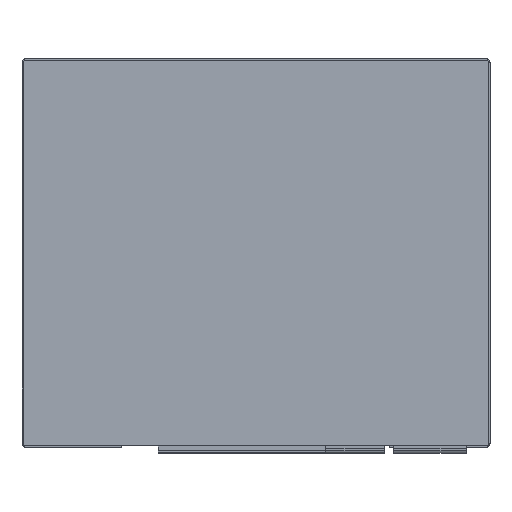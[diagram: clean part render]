
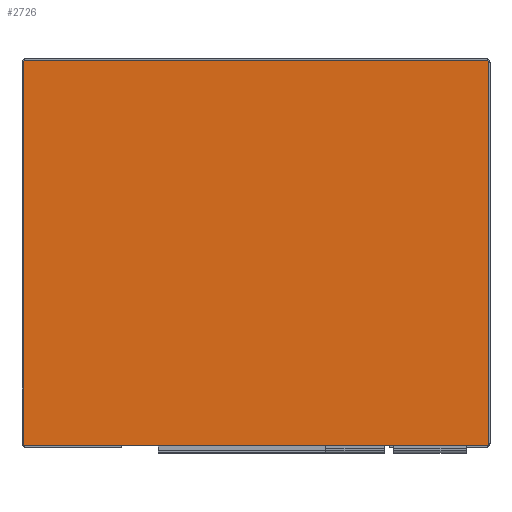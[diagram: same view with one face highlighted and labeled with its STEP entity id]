
A CAD part, top view. The second image highlights one B-rep face of the part: STEP entity #2726.
In plain terms, the highlighted free-form (B-spline) face has degree [1, 1] with [2, 2] control points.
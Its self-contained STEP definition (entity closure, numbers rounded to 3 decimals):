
#2658=CARTESIAN_POINT('',(41.877,35.377,3.5));
#2659=CARTESIAN_POINT('',(41.877,-48.377,3.5));
#2660=CARTESIAN_POINT('',(-41.877,35.377,3.5));
#2661=CARTESIAN_POINT('',(-41.877,-48.377,3.5));
#2662=B_SPLINE_SURFACE_WITH_KNOTS('',1,1,((#2658,#2659),(#2660,#2661)),.PLANE_SURF.,.F.,.F.,.U.,(2,2),(2,2),(0.,1.),(0.,1.),.UNSPECIFIED.);
#2663=CARTESIAN_POINT('',(-37.87,-31.57,3.5));
#2664=VERTEX_POINT('',#2663);
#2665=CARTESIAN_POINT('',(37.87,-31.57,3.5));
#2666=VERTEX_POINT('',#2665);
#2667=CARTESIAN_POINT('',(-37.87,-31.57,3.5));
#2668=CARTESIAN_POINT('',(37.87,-31.57,3.5));
#2669=B_SPLINE_CURVE_WITH_KNOTS('',1,(#2667,#2668),.POLYLINE_FORM.,.F.,.U.,(2,2),(0.003,0.997),.UNSPECIFIED.);
#2670=EDGE_CURVE('',#2664,#2666,#2669,.T.);
#2671=ORIENTED_EDGE('',*,*,#2670,.T.);
#2672=CARTESIAN_POINT('',(38.07,-31.37,3.5));
#2673=VERTEX_POINT('',#2672);
#2674=CARTESIAN_POINT('',(37.87,-31.57,3.5));
#2675=CARTESIAN_POINT('',(38.07,-31.57,3.5));
#2676=CARTESIAN_POINT('',(38.07,-31.37,3.5));
#2677=(BOUNDED_CURVE()B_SPLINE_CURVE(2,(#2674,#2675,#2676),.CIRCULAR_ARC.,.F.,.U.)B_SPLINE_CURVE_WITH_KNOTS((3,3),(0.,1.),.UNSPECIFIED.)CURVE()GEOMETRIC_REPRESENTATION_ITEM()RATIONAL_B_SPLINE_CURVE((1.,0.707,1.))REPRESENTATION_ITEM(''));
#2678=EDGE_CURVE('',#2666,#2673,#2677,.T.);
#2679=ORIENTED_EDGE('',*,*,#2678,.T.);
#2680=CARTESIAN_POINT('',(38.07,31.37,3.5));
#2681=VERTEX_POINT('',#2680);
#2682=CARTESIAN_POINT('',(38.07,-31.37,3.5));
#2683=CARTESIAN_POINT('',(38.07,31.37,3.5));
#2684=B_SPLINE_CURVE_WITH_KNOTS('',1,(#2682,#2683),.POLYLINE_FORM.,.F.,.U.,(2,2),(0.003,0.997),.UNSPECIFIED.);
#2685=EDGE_CURVE('',#2673,#2681,#2684,.T.);
#2686=ORIENTED_EDGE('',*,*,#2685,.T.);
#2687=CARTESIAN_POINT('',(37.87,31.57,3.5));
#2688=VERTEX_POINT('',#2687);
#2689=CARTESIAN_POINT('',(38.07,31.37,3.5));
#2690=CARTESIAN_POINT('',(38.07,31.57,3.5));
#2691=CARTESIAN_POINT('',(37.87,31.57,3.5));
#2692=(BOUNDED_CURVE()B_SPLINE_CURVE(2,(#2689,#2690,#2691),.CIRCULAR_ARC.,.F.,.U.)B_SPLINE_CURVE_WITH_KNOTS((3,3),(0.,1.),.UNSPECIFIED.)CURVE()GEOMETRIC_REPRESENTATION_ITEM()RATIONAL_B_SPLINE_CURVE((1.,0.707,1.))REPRESENTATION_ITEM(''));
#2693=EDGE_CURVE('',#2681,#2688,#2692,.T.);
#2694=ORIENTED_EDGE('',*,*,#2693,.T.);
#2695=CARTESIAN_POINT('',(-37.87,31.57,3.5));
#2696=VERTEX_POINT('',#2695);
#2697=CARTESIAN_POINT('',(37.87,31.57,3.5));
#2698=CARTESIAN_POINT('',(-37.87,31.57,3.5));
#2699=B_SPLINE_CURVE_WITH_KNOTS('',1,(#2697,#2698),.POLYLINE_FORM.,.F.,.U.,(2,2),(0.003,0.997),.UNSPECIFIED.);
#2700=EDGE_CURVE('',#2688,#2696,#2699,.T.);
#2701=ORIENTED_EDGE('',*,*,#2700,.T.);
#2702=CARTESIAN_POINT('',(-38.07,31.37,3.5));
#2703=VERTEX_POINT('',#2702);
#2704=CARTESIAN_POINT('',(-37.87,31.57,3.5));
#2705=CARTESIAN_POINT('',(-37.953,31.57,3.5));
#2706=CARTESIAN_POINT('',(-38.07,31.453,3.5));
#2707=CARTESIAN_POINT('',(-38.07,31.37,3.5));
#2708=(BOUNDED_CURVE()B_SPLINE_CURVE(2,(#2704,#2705,#2706,#2707),.CIRCULAR_ARC.,.F.,.U.)B_SPLINE_CURVE_WITH_KNOTS((3,1,3),(0.,0.5,1.),.UNSPECIFIED.)CURVE()GEOMETRIC_REPRESENTATION_ITEM()RATIONAL_B_SPLINE_CURVE((1.,0.854,0.854,1.))REPRESENTATION_ITEM(''));
#2709=EDGE_CURVE('',#2696,#2703,#2708,.T.);
#2710=ORIENTED_EDGE('',*,*,#2709,.T.);
#2711=CARTESIAN_POINT('',(-38.07,-31.37,3.5));
#2712=VERTEX_POINT('',#2711);
#2713=CARTESIAN_POINT('',(-38.07,31.37,3.5));
#2714=CARTESIAN_POINT('',(-38.07,-31.37,3.5));
#2715=B_SPLINE_CURVE_WITH_KNOTS('',1,(#2713,#2714),.POLYLINE_FORM.,.F.,.U.,(2,2),(0.003,0.997),.UNSPECIFIED.);
#2716=EDGE_CURVE('',#2703,#2712,#2715,.T.);
#2717=ORIENTED_EDGE('',*,*,#2716,.T.);
#2718=CARTESIAN_POINT('',(-38.07,-31.37,3.5));
#2719=CARTESIAN_POINT('',(-38.07,-31.57,3.5));
#2720=CARTESIAN_POINT('',(-37.87,-31.57,3.5));
#2721=(BOUNDED_CURVE()B_SPLINE_CURVE(2,(#2718,#2719,#2720),.CIRCULAR_ARC.,.F.,.U.)B_SPLINE_CURVE_WITH_KNOTS((3,3),(0.,1.),.UNSPECIFIED.)CURVE()GEOMETRIC_REPRESENTATION_ITEM()RATIONAL_B_SPLINE_CURVE((1.,0.707,1.))REPRESENTATION_ITEM(''));
#2722=EDGE_CURVE('',#2712,#2664,#2721,.T.);
#2723=ORIENTED_EDGE('',*,*,#2722,.T.);
#2724=EDGE_LOOP('',(#2671,#2679,#2686,#2694,#2701,#2710,#2717,#2723));
#2725=FACE_OUTER_BOUND('',#2724,.T.);
#2726=ADVANCED_FACE('',(#2725),#2662,.T.);
